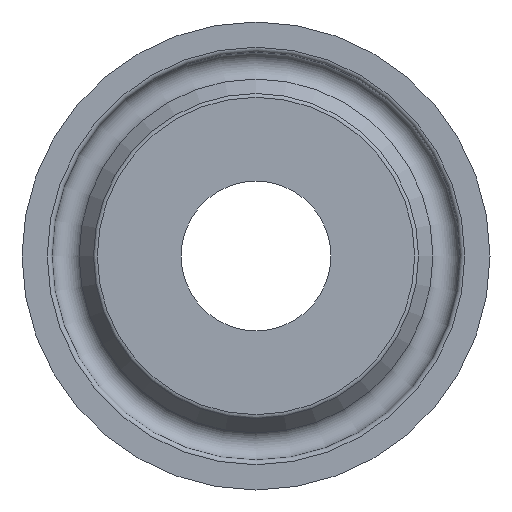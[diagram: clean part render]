
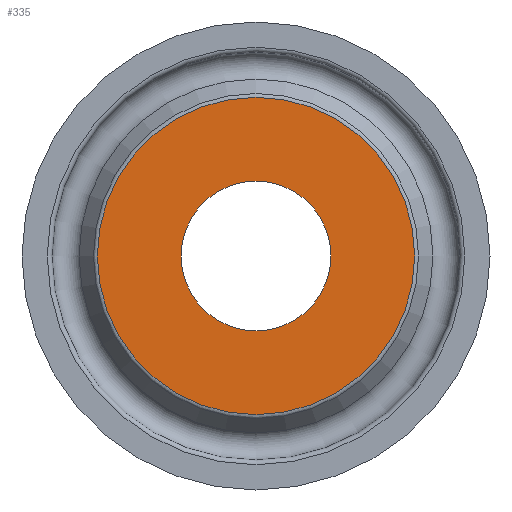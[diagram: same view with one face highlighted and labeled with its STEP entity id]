
A CAD part, front view. The second image highlights one B-rep face of the part: STEP entity #335.
In plain terms, the highlighted planar face has unit normal (0, -1, 0).
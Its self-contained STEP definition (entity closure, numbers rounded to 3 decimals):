
#301=CARTESIAN_POINT('',(8.475,0.8,0.0));
#302=VERTEX_POINT('',#301);
#303=CARTESIAN_POINT('',(0.0,0.8,0.0));
#304=DIRECTION('',(0.0,-1.0,0.0));
#305=DIRECTION('',(1.0,0.0,0.0));
#306=AXIS2_PLACEMENT_3D('',#303,#304,#305);
#307=CIRCLE('',#306,8.475);
#308=EDGE_CURVE('',#302,#302,#307,.T.);
#316=CARTESIAN_POINT('',(6.238,0.8,0.0));
#317=DIRECTION('',(0.0,-1.0,0.0));
#318=DIRECTION('',(0.0,0.0,-1.0));
#319=AXIS2_PLACEMENT_3D('',#316,#317,#318);
#320=PLANE('',#319);
#321=ORIENTED_EDGE('',*,*,#308,.T.);
#322=EDGE_LOOP('',(#321));
#323=FACE_OUTER_BOUND('',#322,.T.);
#324=CARTESIAN_POINT('',(4.,0.8,0.0));
#325=VERTEX_POINT('',#324);
#326=CARTESIAN_POINT('',(0.0,0.8,0.0));
#327=DIRECTION('',(0.0,-1.0,0.0));
#328=DIRECTION('',(1.0,0.0,0.0));
#329=AXIS2_PLACEMENT_3D('',#326,#327,#328);
#330=CIRCLE('',#329,4.);
#331=EDGE_CURVE('',#325,#325,#330,.T.);
#332=ORIENTED_EDGE('',*,*,#331,.F.);
#333=EDGE_LOOP('',(#332));
#334=FACE_BOUND('',#333,.T.);
#335=ADVANCED_FACE('',(#323,#334),#320,.T.);
